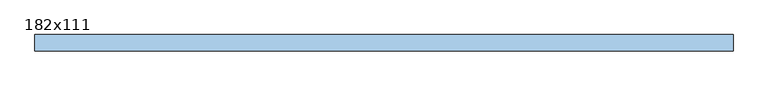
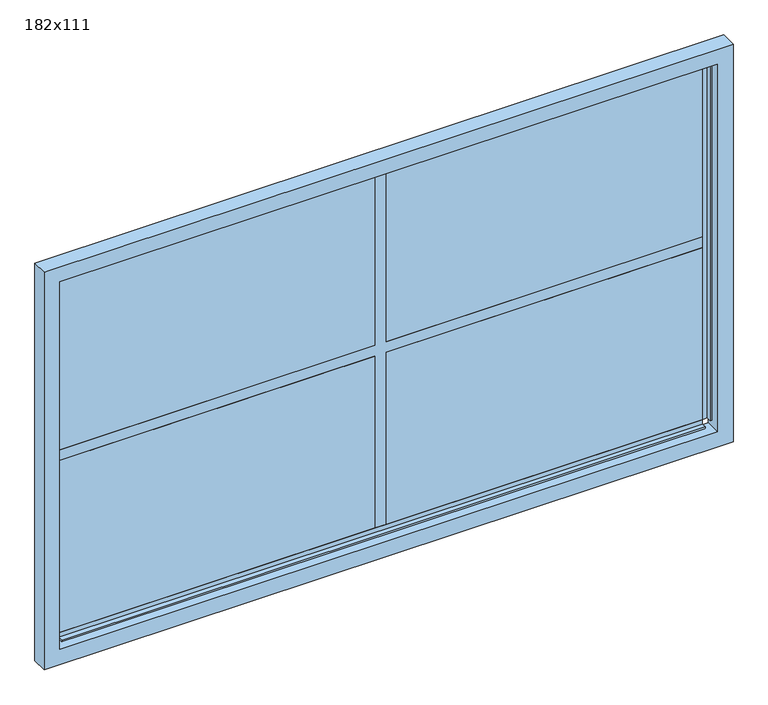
"""IFC4 building model written with IfcOpenShell, lengths in millimetres: window geometry, ARQ-VE-EX-Rejilla : 182x111."""

from ifc_helpers import new_model, si_unit, frame, origin, place, context, project, spatial, polyline, outline, extrude, source, transform, mapped, element, save


def window_182x111_f0448781(model_context):
    return source(origin(), model_context, "Body", "SweptSolid", [
        extrude(outline(polyline([(-15.0, 287.0), (-850.0, 287.0), (-850.0, 292.0), (-15.0, 292.0), (-15.0, 287.0)])), frame((0.0, 0.0, 860.0), z_axis=(0.0, 0.0, 1.0), x_axis=(1.0, 0.0, 0.0)), (0.0, 0.0, 1.0), 480.0),
        extrude(outline(polyline([(850.0, 287.0), (15.0, 287.0), (15.0, 292.0), (850.0, 292.0), (850.0, 287.0)])), frame((0.0, 0.0, 860.0), z_axis=(0.0, 0.0, 1.0), x_axis=(1.0, 0.0, 0.0)), (0.0, 0.0, 1.0), 480.0),
        extrude(outline(polyline([(850.0, 287.0), (15.0, 287.0), (15.0, 292.0), (850.0, 292.0), (850.0, 287.0)])), frame((0.0, 0.0, 1370.0), z_axis=(0.0, 0.0, 1.0), x_axis=(1.0, 0.0, 0.0)), (0.0, 0.0, 1.0), 480.0),
        extrude(outline(polyline([(-15.0, 287.0), (-850.0, 287.0), (-850.0, 292.0), (-15.0, 292.0), (-15.0, 287.0)])), frame((0.0, 0.0, 1370.0), z_axis=(0.0, 0.0, 1.0), x_axis=(1.0, 0.0, 0.0)), (0.0, 0.0, 1.0), 480.0),
        extrude(outline(polyline([(1370.0, 15.0), (1850.0, 15.0), (1850.0, -15.0), (1370.0, -15.0), (1370.0, -850.0), (1340.0, -850.0), (1340.0, -15.0), (860.0, -15.0), (860.0, 15.0), (1340.0, 15.0), (1340.0, 850.0), (1370.0, 850.0), (1370.0, 15.0)])), frame((0.0, 287.0, 0.0), z_axis=(0.0, 1.0, 0.0), x_axis=(0.0, 0.0, 1.0)), (0.0, 0.0, 1.0), 5.0),
        extrude(outline(polyline([(1910.0, -910.0), (800.0, -910.0), (800.0, 910.0), (1910.0, 910.0), (1910.0, -910.0)]), holes=[polyline([(1868.0, -868.0), (1868.0, 868.0), (842.0, 868.0), (842.0, -868.0), (1868.0, -868.0)])]), frame((0.0, 250.0, 0.0), z_axis=(0.0, 1.0, 0.0), x_axis=(0.0, 0.0, 1.0)), (0.0, 0.0, 1.0), 42.0),
        extrude(outline(polyline([(274.0, 842.0), (274.0, 847.0), (287.0, 847.0), (287.0, 860.0), (292.0, 860.0), (292.0, 842.0), (274.0, 842.0)])), frame((-850.0, 0.0, 0.0), z_axis=(1.0, 0.0, 0.0), x_axis=(0.0, 1.0, 0.0)), (0.0, 0.0, 1.0), 1700.0),
        extrude(outline(polyline([(274.0, 1868.0), (292.0, 1868.0), (292.0, 1850.0), (287.0, 1850.0), (287.0, 1863.0), (274.0, 1863.0), (274.0, 1868.0)])), frame((-850.0, 0.0, 0.0), z_axis=(1.0, 0.0, 0.0), x_axis=(0.0, 1.0, 0.0)), (0.0, 0.0, 1.0), 1700.0),
        extrude(outline(polyline([(-868.0, 292.0), (-850.0, 292.0), (-850.0, 287.0), (-863.0, 287.0), (-863.0, 274.0), (-868.0, 274.0), (-868.0, 292.0)])), frame((0.0, 0.0, 860.0), z_axis=(0.0, 0.0, 1.0), x_axis=(1.0, 0.0, 0.0)), (0.0, 0.0, 1.0), 990.0),
        extrude(outline(polyline([(868.0, 292.0), (868.0, 274.0), (863.0, 274.0), (863.0, 287.0), (850.0, 287.0), (850.0, 292.0), (868.0, 292.0)])), frame((0.0, 0.0, 860.0), z_axis=(0.0, 0.0, 1.0), x_axis=(1.0, 0.0, 0.0)), (0.0, 0.0, 1.0), 990.0),
    ])


if __name__ == "__main__":
    model = new_model("IFC4")
    model_context = context("Model", 3, world=origin())
    ifc_project = project(units=[si_unit("LENGTHUNIT", "METRE", prefix="MILLI")], contexts=[model_context])
    site = spatial("IfcSite", under=ifc_project)
    building = spatial("IfcBuilding", under=site)
    placement = place(None, origin())
    window_182x111_shape = window_182x111_f0448781(model_context)
    element("IfcWindow", 1, ObjectType="ARQ-VE-EX-Rejilla : 182x111", at=placement, inside=building, context=model_context, shape_type="MappedRepresentation", body=[
        mapped(window_182x111_shape, transform((0.0, 0.0, 0.0), x_axis=(1.0, 0.0, 0.0), y_axis=(0.0, 1.0, 0.0), z_axis=(0.0, 0.0, 1.0))),
    ])
    save(model, "model.ifc")
